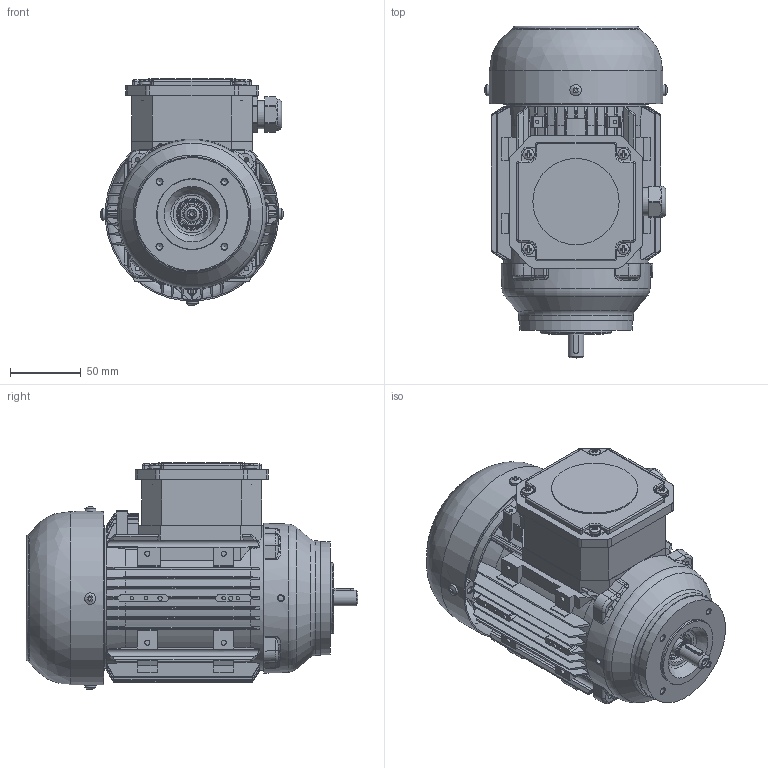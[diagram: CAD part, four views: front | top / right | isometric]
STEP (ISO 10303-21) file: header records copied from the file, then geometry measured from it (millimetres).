
FILE_DESCRIPTION(/* description */ (''),/* implementation_level */ '2;1');
FILE_NAME(/* name */ 'OUTLOOK VIEW QH63 FC B14 - REDUCED FT65 SPL.stp',/* time_stamp */ '2021-09-21T10:54:33+03:00',/* author */ (''),/* organization */ (''),/* preprocessor_version */ 'ST-DEVELOPER v16',/* originating_system */ 'SIEMENS PLM Software NX 11.0',/* authorisation */ '');
FILE_SCHEMA (('AUTOMOTIVE_DESIGN { 1 0 10303 214 3 1 1 1 }'));
Products named in the file (1): 260652D491E0rv2f
Bounding box: 129.21 x 234.84 x 160.6 mm (x, y, z)
Volume: 543369.7 mm3; surface area: 367871.4 mm2
Topology: 39 solids, 41 shells, 2767 faces, 7213 edges, 4559 vertices
Faces by surface type: plane 1148, cylinder 886, bspline 317, cone 219, torus 128, sphere 50, extrusion 19
Full cylindrical faces by diameter (mm): 1.7 x2, 2.5 x12, 3 x4, 3.15 x1, 3.3 x10, 3.65 x14, 4 x9, 4.2 x4, 4.3 x1, 4.5 x4, 4.65 x4, 4.8 x4, 5 x4, 5.1 x1, 5.5 x1, 8 x9, 10.4 x1, 11 x2, 11.4 x2, 11.5 x1, 12 x5, 12.2 x1, 12.5 x1, 13 x1, 14.5 x1, 15.5 x2, 18 x1, 18.45 x8, 18.5 x1, 18.9 x1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
Entity records: 94803 total; most frequent: CARTESIAN_POINT 25869, ORIENTED_EDGE 13372, DIRECTION 12879, EDGE_CURVE 6686, AXIS2_PLACEMENT_3D 4919, VERTEX_POINT 4458, EDGE_LOOP 3370, VECTOR 3041
